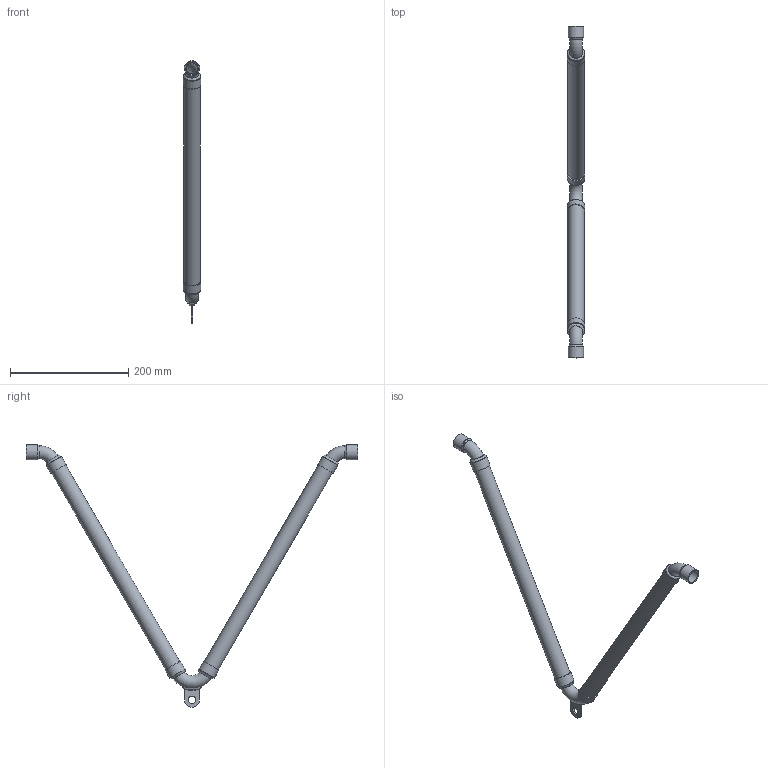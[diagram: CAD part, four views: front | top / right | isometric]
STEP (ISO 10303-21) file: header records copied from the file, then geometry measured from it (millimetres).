
FILE_DESCRIPTION((''),'2;1');
FILE_NAME('C:\REVIT SHARED FILES\STP\VCPSB\VCPSB-0_75.stp','2013-08-08T10:36:55',('rramoutar'),(''),'Autodesk Inventor 2012','Autodesk Inventor 2012','');
FILE_SCHEMA(('AUTOMOTIVE_DESIGN { 1 0 10303 214 1 1 1 1 }'));
Length unit declared in the file: inch
Products named in the file (7): A-31296 VCPSB 0.75 inch.iam (NO HOSE); A-31296 VCPSB 0.75 inch.iam (NO HOSE)_Welds; A-31125-3 VCPSB 0.75 inch 120 DEGREE ELBOW; A-31302 VCPS & VCPSB 0.5 inch TO 1.5 inch SUPPORT CLIP; A-31117-3 VCPSB 0.75 inch 60 DEGREE ELBOW; A-31011 BRONZE HOSE BRAID COLLAR 0.75 inch; A-31296 VCPSB 0.75 inch BRAID
Assembly tree (11 placements, depth 2):
  A-31296 VCPSB 0.75 inch.iam (NO HOSE)
    A-31296 VCPSB 0.75 inch.iam (NO HOSE)_Welds
    A-31125-3 VCPSB 0.75 inch 120 DEGREE ELBOW
    A-31302 VCPS & VCPSB 0.5 inch TO 1.5 inch SUPPORT CLIP
    A-31117-3 VCPSB 0.75 inch 60 DEGREE ELBOW  x2
    A-31011 BRONZE HOSE BRAID COLLAR 0.75 inch  x4
    A-31296 VCPSB 0.75 inch BRAID  x2
Bounding box: 30.07 x 561.98 x 444.65 mm (x, y, z)
Volume: 54824.7 mm3; surface area: 184922.1 mm2
Topology: 15 solids, 15 shells, 72 faces, 141 edges, 94 vertices
Faces by surface type: plane 31, cylinder 18, torus 11, bspline 8, cone 4
Full cylindrical faces by diameter (mm): 12.7 x1, 22.403 x2, 25.705 x2, 26.924 x6, 27.534 x2, 30.099 x4
Entity records: 7082 total; most frequent: CARTESIAN_POINT 5915, DIRECTION 190, ORIENTED_EDGE 156, AXIS2_PLACEMENT_3D 88, EDGE_LOOP 80, EDGE_CURVE 78, VERTEX_POINT 62, FACE_OUTER_BOUND 48
